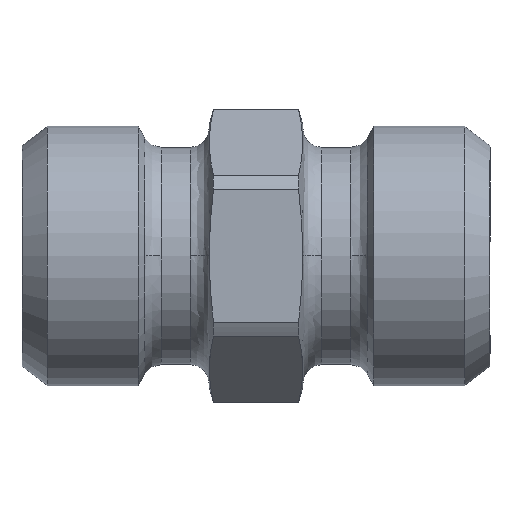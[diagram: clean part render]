
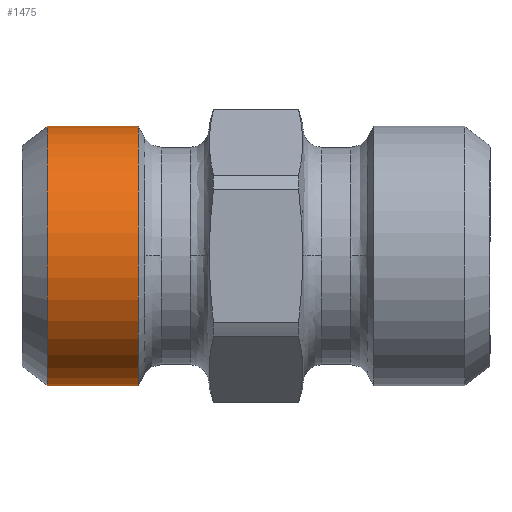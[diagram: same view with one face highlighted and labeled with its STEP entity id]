
A CAD part, top view. The second image highlights one B-rep face of the part: STEP entity #1475.
In plain terms, the highlighted cylindrical face has radius 6.925 mm (diameter 13.85 mm), a partial arc.
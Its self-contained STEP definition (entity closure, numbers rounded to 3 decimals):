
#859=CARTESIAN_POINT('',(0.,-6.925,11.14));
#860=VERTEX_POINT('',#859);
#861=CARTESIAN_POINT('',(0.,-6.925,6.3));
#862=VERTEX_POINT('',#861);
#863=CARTESIAN_POINT('',(0.,-6.925,11.14));
#864=DIRECTION('',(0.0,0.0,-1.0));
#865=VECTOR('',#864,4.84);
#866=LINE('',#863,#865);
#867=EDGE_CURVE('',#860,#862,#866,.T.);
#869=CARTESIAN_POINT('',(0.,6.925,11.14));
#870=VERTEX_POINT('',#869);
#878=CARTESIAN_POINT('',(0.,6.925,6.3));
#879=VERTEX_POINT('',#878);
#880=CARTESIAN_POINT('',(0.,6.925,6.3));
#881=DIRECTION('',(0.0,0.0,1.0));
#882=VECTOR('',#881,4.84);
#883=LINE('',#880,#882);
#884=EDGE_CURVE('',#879,#870,#883,.T.);
#1351=CARTESIAN_POINT('',(0.,0.,6.3));
#1352=DIRECTION('',(0.0,0.0,-1.0));
#1353=DIRECTION('',(0.0,-1.0,0.0));
#1354=AXIS2_PLACEMENT_3D('',#1351,#1352,#1353);
#1355=CIRCLE('',#1354,6.925);
#1356=EDGE_CURVE('',#879,#862,#1355,.T.);
#1452=CARTESIAN_POINT('',(0.,0.,11.14));
#1453=DIRECTION('',(0.0,0.0,-1.0));
#1454=DIRECTION('',(0.0,-1.0,0.0));
#1455=AXIS2_PLACEMENT_3D('',#1452,#1453,#1454);
#1456=CIRCLE('',#1455,6.925);
#1457=EDGE_CURVE('',#870,#860,#1456,.T.);
#1464=CARTESIAN_POINT('',(0.,0.,8.72));
#1465=DIRECTION('',(0.,0.,-1.0));
#1466=DIRECTION('',(0.0,-1.0,0.0));
#1467=AXIS2_PLACEMENT_3D('',#1464,#1465,#1466);
#1468=CYLINDRICAL_SURFACE('',#1467,6.925);
#1469=ORIENTED_EDGE('',*,*,#867,.T.);
#1470=ORIENTED_EDGE('',*,*,#1356,.F.);
#1471=ORIENTED_EDGE('',*,*,#884,.T.);
#1472=ORIENTED_EDGE('',*,*,#1457,.T.);
#1473=EDGE_LOOP('',(#1469,#1470,#1471,#1472));
#1474=FACE_OUTER_BOUND('',#1473,.T.);
#1475=ADVANCED_FACE('',(#1474),#1468,.T.);
